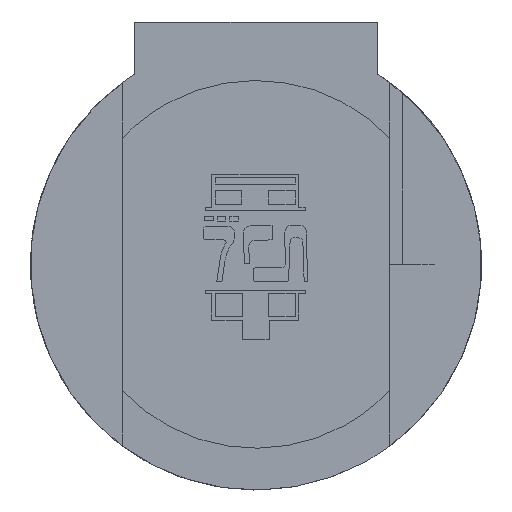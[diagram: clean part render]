
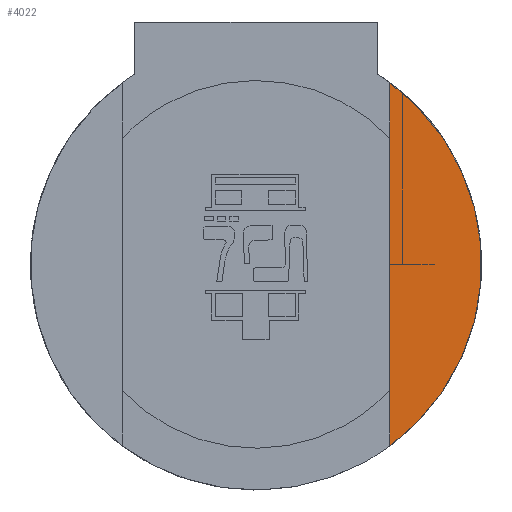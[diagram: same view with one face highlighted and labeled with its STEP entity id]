
A CAD part, left-side view. The second image highlights one B-rep face of the part: STEP entity #4022.
In plain terms, the highlighted planar face has unit normal (-1, 0, 0).
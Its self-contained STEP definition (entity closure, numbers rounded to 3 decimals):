
#3766=CARTESIAN_POINT('Vertex',(-7.,-8.,10.874)) ;
#3769=CARTESIAN_POINT('Axis2P3D Location',(-7.,0.,0.)) ;
#3773=CARTESIAN_POINT('Vertex',(-7.,-8.,-10.874)) ;
#4008=CARTESIAN_POINT('Axis2P3D Location',(-7.,0.,0.)) ;
#4013=CARTESIAN_POINT('Line Origine',(-7.,-8.,0.)) ;
#3770=DIRECTION('Axis2P3D Direction',(-1.,0.,0.)) ;
#4009=DIRECTION('Axis2P3D Direction',(-1.,0.,0.)) ;
#4010=DIRECTION('Axis2P3D XDirection',(0.,-1.,0.)) ;
#4014=DIRECTION('Vector Direction',(0.,0.,-1.)) ;
#3771=AXIS2_PLACEMENT_3D('Circle Axis2P3D',#3769,#3770,$) ;
#4011=AXIS2_PLACEMENT_3D('Plane Axis2P3D',#4008,#4009,#4010) ;
#4019=ORIENTED_EDGE('',*,*,#4017,.T.) ;
#4020=ORIENTED_EDGE('',*,*,#3775,.T.) ;
#4015=VECTOR('Line Direction',#4014,1.) ;
#4022=ADVANCED_FACE('PartBody',(#4021),#4012,.T.) ;
#3772=CIRCLE('generated circle',#3771,13.5) ;
#3775=EDGE_CURVE('',#3774,#3767,#3772,.T.) ;
#4017=EDGE_CURVE('',#3767,#3774,#4016,.T.) ;
#4018=EDGE_LOOP('',(#4019,#4020)) ;
#4021=FACE_OUTER_BOUND('',#4018,.T.) ;
#4016=LINE('Line',#4013,#4015) ;
#4012=PLANE('',#4011) ;
#3767=VERTEX_POINT('',#3766) ;
#3774=VERTEX_POINT('',#3773) ;
